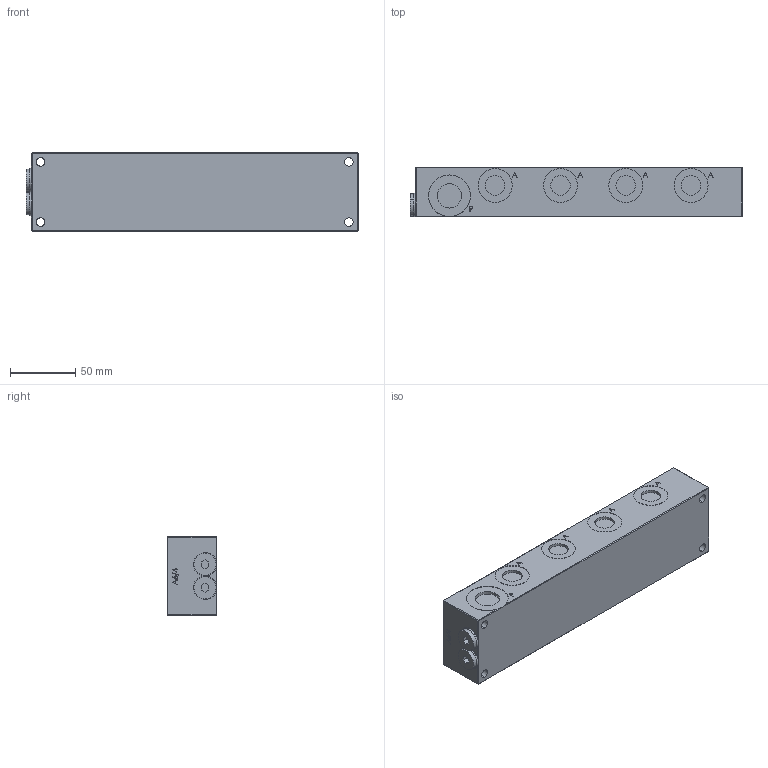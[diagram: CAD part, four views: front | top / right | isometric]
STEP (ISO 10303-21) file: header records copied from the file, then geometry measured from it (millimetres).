
FILE_DESCRIPTION (( 'STEP AP214' ), '1' );
FILE_NAME ('A6_4.STEP', '2017-05-01T14:02:29', ( '' ), ( '' ), 'SwSTEP 2.0', 'SolidWorks 2016', '' );
FILE_SCHEMA (( 'AUTOMOTIVE_DESIGN' ));
Length unit declared in the file: millimetre
Products named in the file (1): A6_4
Bounding box: 254.2 x 38 x 60 mm (x, y, z)
Volume: 558246.6 mm3; surface area: 60714.7 mm2
Topology: 3 solids, 3 shells, 450 faces, 1046 edges, 688 vertices
Faces by surface type: plane 259, cylinder 132, bspline 51, cone 8
Entity records: 20086 total; most frequent: CARTESIAN_POINT 5476, ORIENTED_EDGE 2092, DIRECTION 1948, EDGE_CURVE 1046, VERTEX_POINT 688, LINE 660, VECTOR 660, AXIS2_PLACEMENT_3D 644
